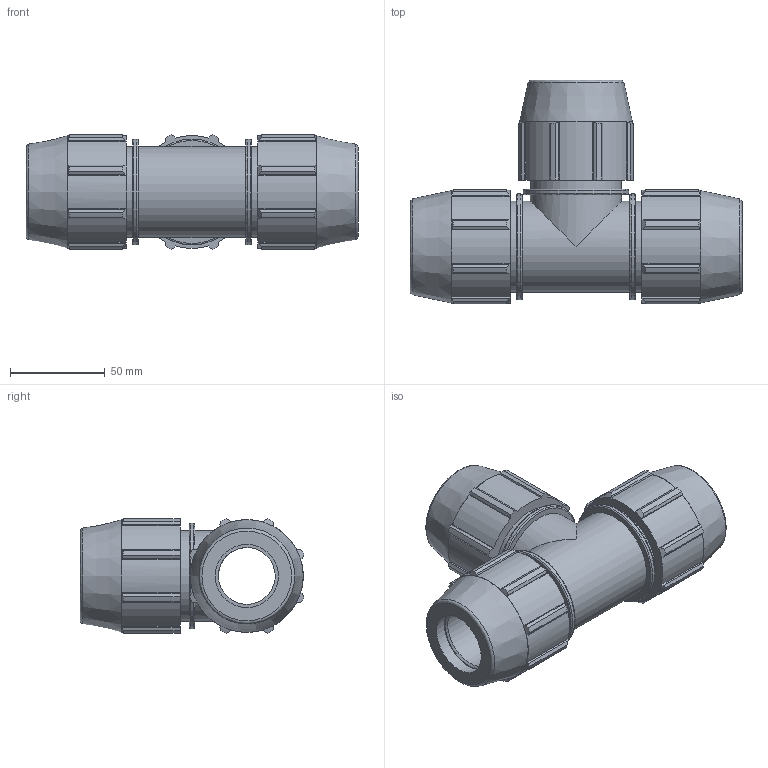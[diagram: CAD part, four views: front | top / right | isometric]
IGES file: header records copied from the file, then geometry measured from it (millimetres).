
Global section: file name: 0704M0100.ipt; native system: Autodesk Inventor 2019; preprocessor: unknown; author: KIM; date: 20210826.124539; units: inch
Bounding box: 175.01 x 118 x 60.23 mm (x, y, z)
Volume: 366209.4 mm3; surface area: 78432.1 mm2
Topology: 1 solids, 1 shells, 212 faces, 605 edges, 410 vertices
Faces by surface type: plane 114, cylinder 56, cone 22, revolution 20
Full cylindrical faces by diameter (mm): 48.006 x5, 55.687 x3
